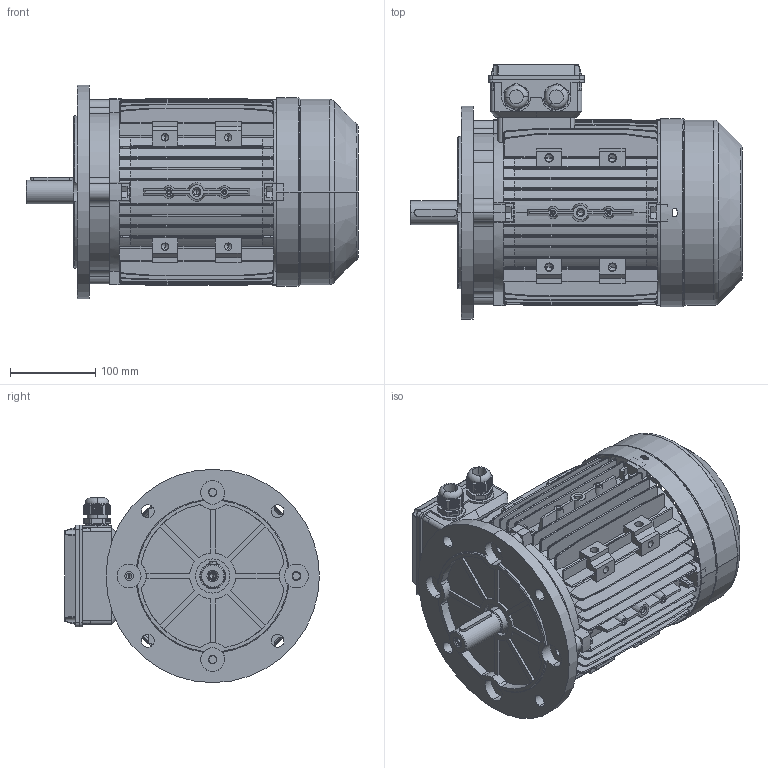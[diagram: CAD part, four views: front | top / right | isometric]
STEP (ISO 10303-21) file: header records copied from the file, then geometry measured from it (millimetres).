
FILE_DESCRIPTION (( 'STEP AP203' ), '1' );
FILE_NAME ('ME112M-2¡¢6P B5.STEP', '2014-08-18T11:21:12', ( '' ), ( '' ), 'SwSTEP 2.0', 'SolidWorks 2010', '' );
FILE_SCHEMA (( 'CONFIG_CONTROL_DESIGN' ));
Length unit declared in the file: millimetre
Products named in the file (8): M112傷裔B5; ME112M-2﹜6P B5; M112儂褲; M112瑞欶_95; MS132諉盄碟釱_2Holes; M25 cable gland; MS132諉盄碟裔; M112-Shaft drive end
Assembly tree (8 placements, depth 2):
  ME112M-2﹜6P B5
    M25 cable gland  x2
    M112瑞欶_95
    M112傷裔B5
    M112儂褲
    M112-Shaft drive end
    MS132諉盄碟裔
    MS132諉盄碟釱_2Holes
Bounding box: 389 x 298.5 x 250 mm (x, y, z)
Volume: 1875304.5 mm3; surface area: 1016437.1 mm2
Topology: 10 solids, 10 shells, 3405 faces, 9158 edges, 5763 vertices
Faces by surface type: plane 1625, cylinder 959, bspline 452, cone 209, sphere 102, torus 58
Entity records: 150493 total; most frequent: CARTESIAN_POINT 75609, ORIENTED_EDGE 16222, DIRECTION 14072, EDGE_CURVE 8111, VERTEX_POINT 5129, AXIS2_PLACEMENT_3D 4747, VECTOR 4578, LINE 4578
